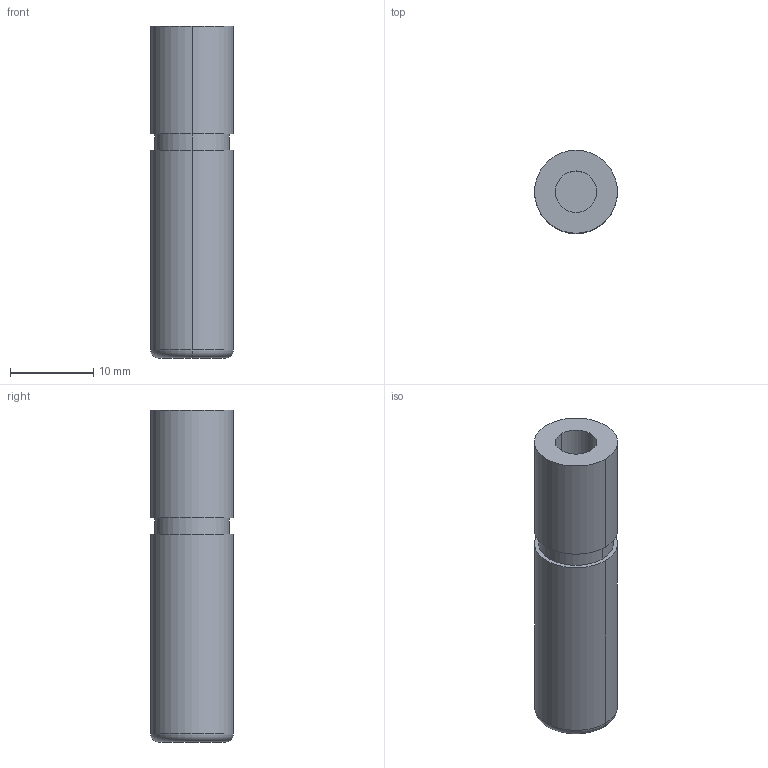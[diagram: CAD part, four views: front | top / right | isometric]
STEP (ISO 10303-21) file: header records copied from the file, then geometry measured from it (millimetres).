
FILE_DESCRIPTION(/* description */ (''),/* implementation_level */ '2;1');
FILE_NAME(/* name */ '3d_sgpn10-40_00277_r00.stp',/* time_stamp */ '2011-01-10T14:11:07+09:00',/* author */ ('MISUMI'),/* organization */ (''),/* preprocessor_version */ 'ST-DEVELOPER v11',/* originating_system */ 'UGS - NX 5.0',/* authorisation */ '');
FILE_SCHEMA (('CONFIG_CONTROL_DESIGN'));
Length unit declared in the file: millimetre
Products named in the file (1): 3d_sgpn10-40_00277_r00
Bounding box: 10 x 10 x 40 mm (x, y, z)
Volume: 2869.7 mm3; surface area: 1611.8 mm2
Topology: 1 solids, 1 shells, 15 faces, 28 edges, 18 vertices
Faces by surface type: cylinder 8, plane 5, torus 2
Entity records: 472 total; most frequent: DIRECTION 80, CARTESIAN_POINT 62, ORIENTED_EDGE 56, AXIS2_PLACEMENT_3D 36, EDGE_CURVE 28, CIRCLE 20, EDGE_LOOP 18, VERTEX_POINT 18
